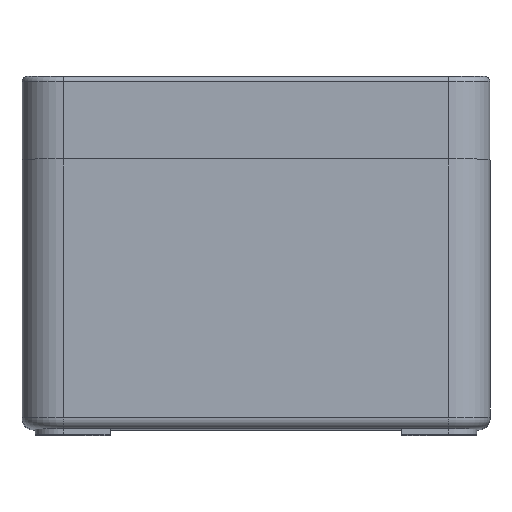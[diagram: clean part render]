
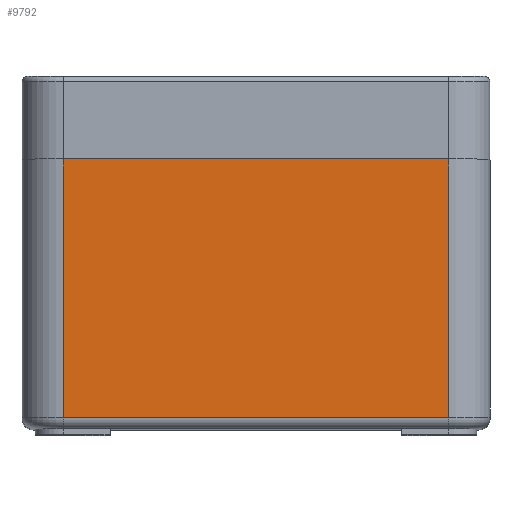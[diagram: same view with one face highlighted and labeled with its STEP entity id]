
A CAD part, top view. The second image highlights one B-rep face of the part: STEP entity #9792.
In plain terms, the highlighted planar face has unit normal (0, 0, 1).
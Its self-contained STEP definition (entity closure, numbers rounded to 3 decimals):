
#1911 = CARTESIAN_POINT ( 'NONE',  ( 35., -49., 70. ) ) ;
#2719 = EDGE_LOOP ( 'NONE', ( #18551, #10687, #16469, #13174 ) ) ;
#3940 = DIRECTION ( 'NONE',  ( 0., 1., 0. ) ) ;
#4497 = VECTOR ( 'NONE', #9429, 1000. ) ;
#5378 = AXIS2_PLACEMENT_3D ( 'NONE', #17729, #6036, #19660 ) ;
#5431 = CARTESIAN_POINT ( 'NONE',  ( -35., 0., 70. ) ) ;
#5434 = CARTESIAN_POINT ( 'NONE',  ( -35., -49., 70. ) ) ;
#5451 = LINE ( 'NONE', #5431, #15909 ) ;
#6036 = DIRECTION ( 'NONE',  ( 0., 0., 1. ) ) ;
#6971 = VECTOR ( 'NONE', #3940, 1000. ) ;
#7554 = CARTESIAN_POINT ( 'NONE',  ( -35., -47., 70. ) ) ;
#8395 = VERTEX_POINT ( 'NONE', #16971 ) ;
#9235 = VERTEX_POINT ( 'NONE', #7554 ) ;
#9344 = DIRECTION ( 'NONE',  ( 0., 1., 0. ) ) ;
#9429 = DIRECTION ( 'NONE',  ( 1., 0., 0. ) ) ;
#9769 = LINE ( 'NONE', #21027, #4497 ) ;
#9792 = ADVANCED_FACE ( 'NONE', ( #21481 ), #9920, .T. ) ;
#9920 = PLANE ( 'NONE',  #5378 ) ;
#10687 = ORIENTED_EDGE ( 'NONE', *, *, #13807, .T. ) ;
#10846 = EDGE_CURVE ( 'NONE', #15153, #8395, #5451, .T. ) ;
#13174 = ORIENTED_EDGE ( 'NONE', *, *, #10846, .F. ) ;
#13230 = DIRECTION ( 'NONE',  ( 1., 0., 0. ) ) ;
#13314 = CARTESIAN_POINT ( 'NONE',  ( 35., -47., 70. ) ) ;
#13807 = EDGE_CURVE ( 'NONE', #9235, #22506, #9769, .T. ) ;
#13809 = EDGE_CURVE ( 'NONE', #9235, #15153, #20052, .T. ) ;
#13995 = EDGE_CURVE ( 'NONE', #22506, #8395, #17945, .T. ) ;
#15153 = VERTEX_POINT ( 'NONE', #20618 ) ;
#15909 = VECTOR ( 'NONE', #13230, 1000. ) ;
#16469 = ORIENTED_EDGE ( 'NONE', *, *, #13995, .T. ) ;
#16971 = CARTESIAN_POINT ( 'NONE',  ( 35., 0., 70. ) ) ;
#17729 = CARTESIAN_POINT ( 'NONE',  ( -35., -49., 70. ) ) ;
#17945 = LINE ( 'NONE', #1911, #6971 ) ;
#18551 = ORIENTED_EDGE ( 'NONE', *, *, #13809, .F. ) ;
#19477 = VECTOR ( 'NONE', #9344, 1000. ) ;
#19660 = DIRECTION ( 'NONE',  ( 1., 0., 0. ) ) ;
#20052 = LINE ( 'NONE', #5434, #19477 ) ;
#20618 = CARTESIAN_POINT ( 'NONE',  ( -35., 0., 70. ) ) ;
#21027 = CARTESIAN_POINT ( 'NONE',  ( 35., -47., 70. ) ) ;
#21481 = FACE_OUTER_BOUND ( 'NONE', #2719, .T. ) ;
#22506 = VERTEX_POINT ( 'NONE', #13314 ) ;
